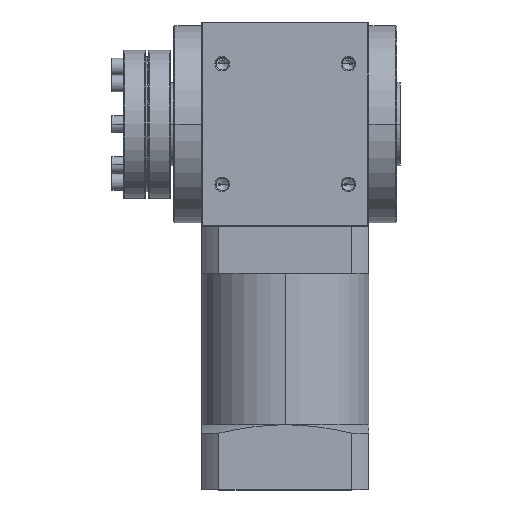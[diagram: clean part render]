
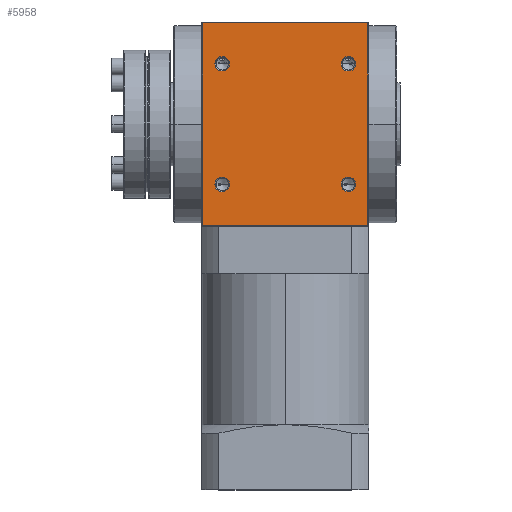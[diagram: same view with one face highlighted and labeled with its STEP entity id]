
A CAD part, top view. The second image highlights one B-rep face of the part: STEP entity #5958.
In plain terms, the highlighted planar face has unit normal (0, 0, 1).
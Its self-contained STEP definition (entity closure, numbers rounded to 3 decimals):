
#161 = CARTESIAN_POINT ( 'NONE',  ( -34., -32.5, 55. ) ) ;
#198 = LINE ( 'NONE', #9521, #13066 ) ;
#564 = VERTEX_POINT ( 'NONE', #19674 ) ;
#675 = ORIENTED_EDGE ( 'NONE', *, *, #3639, .F. ) ;
#1067 = DIRECTION ( 'NONE',  ( 0., -1., 0. ) ) ;
#1105 = LINE ( 'NONE', #25949, #20331 ) ;
#1150 = CIRCLE ( 'NONE', #22569, 3.9 ) ;
#1477 = CARTESIAN_POINT ( 'NONE',  ( -34., -36.4, 55. ) ) ;
#1532 = EDGE_LOOP ( 'NONE', ( #26672, #16731 ) ) ;
#1564 = EDGE_CURVE ( 'NONE', #9024, #24758, #20094, .T. ) ;
#1633 = DIRECTION ( 'NONE',  ( 0., 0., 1. ) ) ;
#1927 = DIRECTION ( 'NONE',  ( 0., 0., 1. ) ) ;
#2086 = CARTESIAN_POINT ( 'NONE',  ( -34., 28.6, 55. ) ) ;
#2214 = CARTESIAN_POINT ( 'NONE',  ( 34., -32.5, 55. ) ) ;
#2219 = AXIS2_PLACEMENT_3D ( 'NONE', #8435, #25210, #10851 ) ;
#2367 = DIRECTION ( 'NONE',  ( 0., -1., 0. ) ) ;
#2609 = DIRECTION ( 'NONE',  ( 0., -1., 0. ) ) ;
#3639 = EDGE_CURVE ( 'NONE', #27042, #21883, #30582, .T. ) ;
#3677 = ORIENTED_EDGE ( 'NONE', *, *, #22286, .T. ) ;
#4050 = CARTESIAN_POINT ( 'NONE',  ( 37.9, 32.5, 55. ) ) ;
#4274 = ORIENTED_EDGE ( 'NONE', *, *, #25930, .F. ) ;
#4631 = DIRECTION ( 'NONE',  ( 1., 0., 0. ) ) ;
#5320 = VERTEX_POINT ( 'NONE', #27573 ) ;
#5356 = FACE_OUTER_BOUND ( 'NONE', #12380, .T. ) ;
#5434 = VERTEX_POINT ( 'NONE', #13545 ) ;
#5891 = CARTESIAN_POINT ( 'NONE',  ( 30.1, 32.5, 55. ) ) ;
#5958 = ADVANCED_FACE ( 'NONE', ( #6874, #24542, #25269, #11767, #5356 ), #17923, .F. ) ;
#6083 = EDGE_CURVE ( 'NONE', #17808, #5434, #6846, .T. ) ;
#6202 = DIRECTION ( 'NONE',  ( 0., 0., 1. ) ) ;
#6333 = ORIENTED_EDGE ( 'NONE', *, *, #9084, .F. ) ;
#6539 = AXIS2_PLACEMENT_3D ( 'NONE', #27392, #13122, #29796 ) ;
#6748 = DIRECTION ( 'NONE',  ( 0., 0., 1. ) ) ;
#6846 = CIRCLE ( 'NONE', #31136, 3.9 ) ;
#6874 = FACE_BOUND ( 'NONE', #1532, .T. ) ;
#7503 = AXIS2_PLACEMENT_3D ( 'NONE', #21157, #6748, #23548 ) ;
#8122 = AXIS2_PLACEMENT_3D ( 'NONE', #31066, #16813, #2367 ) ;
#8435 = CARTESIAN_POINT ( 'NONE',  ( 45., 55., 55. ) ) ;
#9024 = VERTEX_POINT ( 'NONE', #13633 ) ;
#9084 = EDGE_CURVE ( 'NONE', #16929, #23260, #19189, .T. ) ;
#9184 = DIRECTION ( 'NONE',  ( -1., 0., 0. ) ) ;
#9521 = CARTESIAN_POINT ( 'NONE',  ( 45., -54.5, 55. ) ) ;
#9664 = AXIS2_PLACEMENT_3D ( 'NONE', #161, #17054, #2609 ) ;
#10102 = ORIENTED_EDGE ( 'NONE', *, *, #18565, .F. ) ;
#10197 = EDGE_CURVE ( 'NONE', #564, #23717, #28570, .T. ) ;
#10409 = VERTEX_POINT ( 'NONE', #2086 ) ;
#10851 = DIRECTION ( 'NONE',  ( 0., 1., 0. ) ) ;
#11479 = CIRCLE ( 'NONE', #6539, 3.9 ) ;
#11767 = FACE_BOUND ( 'NONE', #21411, .T. ) ;
#12066 = EDGE_CURVE ( 'NONE', #5434, #17808, #19401, .T. ) ;
#12380 = EDGE_LOOP ( 'NONE', ( #28896, #21096, #3677, #13007 ) ) ;
#12476 = ORIENTED_EDGE ( 'NONE', *, *, #29756, .F. ) ;
#13007 = ORIENTED_EDGE ( 'NONE', *, *, #1564, .T. ) ;
#13066 = VECTOR ( 'NONE', #26275, 1000. ) ;
#13122 = DIRECTION ( 'NONE',  ( 0., 0., 1. ) ) ;
#13545 = CARTESIAN_POINT ( 'NONE',  ( -34., -28.6, 55. ) ) ;
#13633 = CARTESIAN_POINT ( 'NONE',  ( -44.5, 54.5, 55. ) ) ;
#13699 = VECTOR ( 'NONE', #15223, 1000. ) ;
#15223 = DIRECTION ( 'NONE',  ( 0., -1., 0. ) ) ;
#15756 = CARTESIAN_POINT ( 'NONE',  ( 44.5, -54.5, 55. ) ) ;
#16106 = CARTESIAN_POINT ( 'NONE',  ( 34., -32.5, 55. ) ) ;
#16306 = CARTESIAN_POINT ( 'NONE',  ( -44.5, 55., 55. ) ) ;
#16386 = CARTESIAN_POINT ( 'NONE',  ( 34., 32.5, 55. ) ) ;
#16731 = ORIENTED_EDGE ( 'NONE', *, *, #12066, .F. ) ;
#16813 = DIRECTION ( 'NONE',  ( 0., 0., 1. ) ) ;
#16929 = VERTEX_POINT ( 'NONE', #5891 ) ;
#17054 = DIRECTION ( 'NONE',  ( 0., 0., 1. ) ) ;
#17315 = CIRCLE ( 'NONE', #30897, 3.9 ) ;
#17808 = VERTEX_POINT ( 'NONE', #1477 ) ;
#17923 = PLANE ( 'NONE',  #2219 ) ;
#17927 = CARTESIAN_POINT ( 'NONE',  ( 44.5, 0., 55. ) ) ;
#18097 = CARTESIAN_POINT ( 'NONE',  ( 37.9, -32.5, 55. ) ) ;
#18506 = DIRECTION ( 'NONE',  ( 1., 0., 0. ) ) ;
#18565 = EDGE_CURVE ( 'NONE', #5320, #10409, #21723, .T. ) ;
#18789 = DIRECTION ( 'NONE',  ( 1., 0., 0. ) ) ;
#19071 = DIRECTION ( 'NONE',  ( 0., 0., 1. ) ) ;
#19189 = CIRCLE ( 'NONE', #7503, 3.9 ) ;
#19401 = CIRCLE ( 'NONE', #9664, 3.9 ) ;
#19674 = CARTESIAN_POINT ( 'NONE',  ( 44.5, 54.5, 55. ) ) ;
#20094 = LINE ( 'NONE', #16306, #13699 ) ;
#20331 = VECTOR ( 'NONE', #9184, 1000. ) ;
#20622 = CARTESIAN_POINT ( 'NONE',  ( -34., -32.5, 55. ) ) ;
#21096 = ORIENTED_EDGE ( 'NONE', *, *, #10197, .F. ) ;
#21157 = CARTESIAN_POINT ( 'NONE',  ( 34., 32.5, 55. ) ) ;
#21411 = EDGE_LOOP ( 'NONE', ( #12476, #10102 ) ) ;
#21723 = CIRCLE ( 'NONE', #8122, 3.9 ) ;
#21883 = VERTEX_POINT ( 'NONE', #26491 ) ;
#22286 = EDGE_CURVE ( 'NONE', #564, #9024, #1105, .T. ) ;
#22342 = EDGE_CURVE ( 'NONE', #21883, #27042, #17315, .T. ) ;
#22569 = AXIS2_PLACEMENT_3D ( 'NONE', #16386, #1927, #18789 ) ;
#23030 = DIRECTION ( 'NONE',  ( 0., -1., 0. ) ) ;
#23260 = VERTEX_POINT ( 'NONE', #4050 ) ;
#23548 = DIRECTION ( 'NONE',  ( 1., 0., 0. ) ) ;
#23717 = VERTEX_POINT ( 'NONE', #15756 ) ;
#24542 = FACE_BOUND ( 'NONE', #28428, .T. ) ;
#24758 = VERTEX_POINT ( 'NONE', #29985 ) ;
#25210 = DIRECTION ( 'NONE',  ( 0., 0., -1. ) ) ;
#25269 = FACE_BOUND ( 'NONE', #28059, .T. ) ;
#25441 = AXIS2_PLACEMENT_3D ( 'NONE', #16106, #1633, #18506 ) ;
#25930 = EDGE_CURVE ( 'NONE', #23260, #16929, #1150, .T. ) ;
#25949 = CARTESIAN_POINT ( 'NONE',  ( 45., 54.5, 55. ) ) ;
#26275 = DIRECTION ( 'NONE',  ( 1., 0., 0. ) ) ;
#26308 = ORIENTED_EDGE ( 'NONE', *, *, #22342, .F. ) ;
#26491 = CARTESIAN_POINT ( 'NONE',  ( 30.1, -32.5, 55. ) ) ;
#26672 = ORIENTED_EDGE ( 'NONE', *, *, #6083, .F. ) ;
#27042 = VERTEX_POINT ( 'NONE', #18097 ) ;
#27265 = EDGE_CURVE ( 'NONE', #24758, #23717, #198, .T. ) ;
#27392 = CARTESIAN_POINT ( 'NONE',  ( -34., 32.5, 55. ) ) ;
#27573 = CARTESIAN_POINT ( 'NONE',  ( -34., 36.4, 55. ) ) ;
#28059 = EDGE_LOOP ( 'NONE', ( #4274, #6333 ) ) ;
#28428 = EDGE_LOOP ( 'NONE', ( #675, #26308 ) ) ;
#28570 = LINE ( 'NONE', #17927, #30796 ) ;
#28896 = ORIENTED_EDGE ( 'NONE', *, *, #27265, .T. ) ;
#29756 = EDGE_CURVE ( 'NONE', #10409, #5320, #11479, .T. ) ;
#29796 = DIRECTION ( 'NONE',  ( 0., -1., 0. ) ) ;
#29985 = CARTESIAN_POINT ( 'NONE',  ( -44.5, -54.5, 55. ) ) ;
#30582 = CIRCLE ( 'NONE', #25441, 3.9 ) ;
#30796 = VECTOR ( 'NONE', #1067, 1000. ) ;
#30897 = AXIS2_PLACEMENT_3D ( 'NONE', #2214, #19071, #4631 ) ;
#31066 = CARTESIAN_POINT ( 'NONE',  ( -34., 32.5, 55. ) ) ;
#31136 = AXIS2_PLACEMENT_3D ( 'NONE', #20622, #6202, #23030 ) ;
